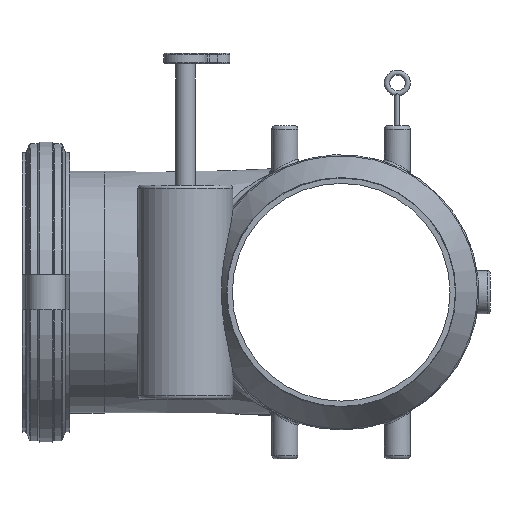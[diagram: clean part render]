
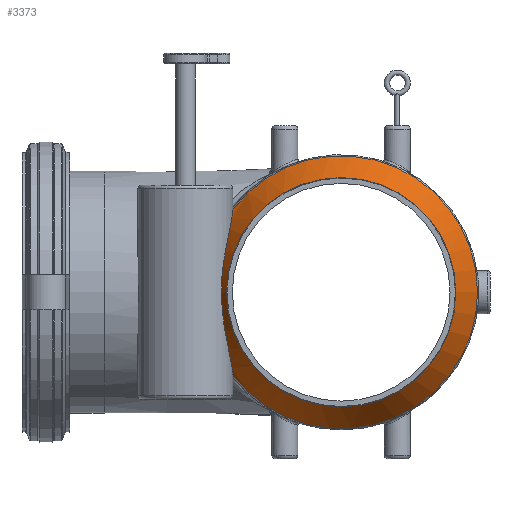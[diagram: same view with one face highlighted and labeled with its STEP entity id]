
A CAD part, left-side view. The second image highlights one B-rep face of the part: STEP entity #3373.
In plain terms, the highlighted conical face has half-angle 30 degrees and reference radius 184.256 mm.
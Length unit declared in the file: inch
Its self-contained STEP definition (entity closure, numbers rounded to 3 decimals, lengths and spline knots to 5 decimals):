
#80=CONICAL_SURFACE('',#3748,7.25419,0.524);
#370=FACE_OUTER_BOUND('',#570,.T.);
#570=EDGE_LOOP('',(#2831,#2832,#2833,#2834,#2835,#2836,#2837,#2838));
#781=CIRCLE('',#3749,6.62546);
#782=CIRCLE('',#3750,6.62546);
#783=CIRCLE('',#3751,7.88292);
#784=CIRCLE('',#3752,7.88292);
#785=CIRCLE('',#3753,6.62546);
#958=LINE('',#7745,#1097);
#1097=VECTOR('',#4640,7.25419);
#1191=B_SPLINE_CURVE_WITH_KNOTS('',3,(#7542,#7543,#7544,#7545,#7546,#7547,
#7548,#7549,#7550,#7551,#7552,#7553,#7554,#7555,#7556,#7557,#7558,#7559,
#7560,#7561,#7562,#7563,#7564,#7565,#7566,#7567,#7568,#7569,#7570,#7571),
 .UNSPECIFIED.,.F.,.F.,(4,2,2,2,2,2,2,2,2,2,2,2,2,2,4),(22.39908,
22.67746,25.83409,28.99072,30.56903,32.14734,
33.72566,35.30397,36.88228,38.4606,40.03891,
41.61723,44.77385,47.93048,48.20886),
 .UNSPECIFIED.);
#1432=VERTEX_POINT('',#7532);
#1433=VERTEX_POINT('',#7541);
#1459=VERTEX_POINT('',#7739);
#1460=VERTEX_POINT('',#7740);
#1461=VERTEX_POINT('',#7742);
#1462=VERTEX_POINT('',#7744);
#1871=EDGE_CURVE('',#1433,#1432,#1191,.T.);
#1928=EDGE_CURVE('',#1459,#1460,#781,.T.);
#1929=EDGE_CURVE('',#1461,#1459,#782,.T.);
#1930=EDGE_CURVE('',#1461,#1462,#958,.T.);
#1931=EDGE_CURVE('',#1462,#1433,#783,.T.);
#1932=EDGE_CURVE('',#1432,#1462,#784,.T.);
#1933=EDGE_CURVE('',#1460,#1461,#785,.T.);
#2831=ORIENTED_EDGE('',*,*,#1928,.F.);
#2832=ORIENTED_EDGE('',*,*,#1929,.F.);
#2833=ORIENTED_EDGE('',*,*,#1930,.T.);
#2834=ORIENTED_EDGE('',*,*,#1931,.T.);
#2835=ORIENTED_EDGE('',*,*,#1871,.T.);
#2836=ORIENTED_EDGE('',*,*,#1932,.T.);
#2837=ORIENTED_EDGE('',*,*,#1930,.F.);
#2838=ORIENTED_EDGE('',*,*,#1933,.F.);
#3373=ADVANCED_FACE('',(#370),#80,.T.);
#3748=AXIS2_PLACEMENT_3D('',#7738,#4634,#4635);
#3749=AXIS2_PLACEMENT_3D('',#7741,#4636,#4637);
#3750=AXIS2_PLACEMENT_3D('',#7743,#4638,#4639);
#3751=AXIS2_PLACEMENT_3D('',#7746,#4641,#4642);
#3752=AXIS2_PLACEMENT_3D('',#7747,#4643,#4644);
#3753=AXIS2_PLACEMENT_3D('',#7748,#4645,#4646);
#4634=DIRECTION('center_axis',(1.,0.,0.));
#4635=DIRECTION('ref_axis',(0.,1.,0.));
#4636=DIRECTION('center_axis',(-1.,0.,0.));
#4637=DIRECTION('ref_axis',(0.,0.,1.));
#4638=DIRECTION('center_axis',(-1.,0.,0.));
#4639=DIRECTION('ref_axis',(0.,0.,1.));
#4640=DIRECTION('',(0.866,-0.5,0.));
#4641=DIRECTION('center_axis',(-1.,0.,0.));
#4642=DIRECTION('ref_axis',(0.,0.,1.));
#4643=DIRECTION('center_axis',(-1.,0.,0.));
#4644=DIRECTION('ref_axis',(0.,0.,1.));
#4645=DIRECTION('center_axis',(-1.,0.,0.));
#4646=DIRECTION('ref_axis',(0.,0.,1.));
#7532=CARTESIAN_POINT('',(-6.86618,6.26246,-4.78769));
#7541=CARTESIAN_POINT('',(-6.86618,6.26246,4.78769));
#7542=CARTESIAN_POINT('Ctrl Pts',(-6.86618,6.26246,4.78769));
#7543=CARTESIAN_POINT('Ctrl Pts',(-6.89253,6.26358,4.76118));
#7544=CARTESIAN_POINT('Ctrl Pts',(-6.91828,6.26506,4.73463));
#7545=CARTESIAN_POINT('Ctrl Pts',(-7.22797,6.28697,4.40779));
#7546=CARTESIAN_POINT('Ctrl Pts',(-7.47308,6.34813,4.07005));
#7547=CARTESIAN_POINT('Ctrl Pts',(-7.8839,6.4961,3.33883));
#7548=CARTESIAN_POINT('Ctrl Pts',(-8.04907,6.58294,2.94504));
#7549=CARTESIAN_POINT('Ctrl Pts',(-8.23974,6.69917,2.33023));
#7550=CARTESIAN_POINT('Ctrl Pts',(-8.29391,6.7357,2.12122));
#7551=CARTESIAN_POINT('Ctrl Pts',(-8.3848,6.80042,1.69864));
#7552=CARTESIAN_POINT('Ctrl Pts',(-8.42153,6.82861,1.48508));
#7553=CARTESIAN_POINT('Ctrl Pts',(-8.4791,6.87417,1.05731));
#7554=CARTESIAN_POINT('Ctrl Pts',(-8.49995,6.89154,0.84308));
#7555=CARTESIAN_POINT('Ctrl Pts',(-8.52728,6.91453,0.41799));
#7556=CARTESIAN_POINT('Ctrl Pts',(-8.53376,6.92015,0.20713));
#7557=CARTESIAN_POINT('Ctrl Pts',(-8.53376,6.92015,-0.20713));
#7558=CARTESIAN_POINT('Ctrl Pts',(-8.52728,6.91453,-0.41799));
#7559=CARTESIAN_POINT('Ctrl Pts',(-8.49995,6.89154,-0.84308));
#7560=CARTESIAN_POINT('Ctrl Pts',(-8.4791,6.87417,-1.05731));
#7561=CARTESIAN_POINT('Ctrl Pts',(-8.42153,6.82861,-1.48508));
#7562=CARTESIAN_POINT('Ctrl Pts',(-8.3848,6.80042,-1.69864));
#7563=CARTESIAN_POINT('Ctrl Pts',(-8.29391,6.7357,-2.12122));
#7564=CARTESIAN_POINT('Ctrl Pts',(-8.23974,6.69917,-2.33023));
#7565=CARTESIAN_POINT('Ctrl Pts',(-8.04907,6.58294,-2.94504));
#7566=CARTESIAN_POINT('Ctrl Pts',(-7.8839,6.4961,-3.33883));
#7567=CARTESIAN_POINT('Ctrl Pts',(-7.47308,6.34813,-4.07005));
#7568=CARTESIAN_POINT('Ctrl Pts',(-7.22797,6.28697,-4.40779));
#7569=CARTESIAN_POINT('Ctrl Pts',(-6.91828,6.26506,-4.73463));
#7570=CARTESIAN_POINT('Ctrl Pts',(-6.89253,6.26358,-4.76118));
#7571=CARTESIAN_POINT('Ctrl Pts',(-6.86618,6.26246,-4.78769));
#7738=CARTESIAN_POINT('Origin',(-7.95518,0.,0.));
#7739=CARTESIAN_POINT('',(-9.04418,6.62546,0.));
#7740=CARTESIAN_POINT('',(-9.04418,0.,-6.62546));
#7741=CARTESIAN_POINT('Origin',(-9.04418,0.,0.));
#7742=CARTESIAN_POINT('',(-9.04418,-6.62546,0.));
#7743=CARTESIAN_POINT('Origin',(-9.04418,0.,0.));
#7744=CARTESIAN_POINT('',(-6.86618,-7.88292,0.));
#7745=CARTESIAN_POINT('',(-7.95518,-7.25419,0.));
#7746=CARTESIAN_POINT('Origin',(-6.86618,0.,0.));
#7747=CARTESIAN_POINT('Origin',(-6.86618,0.,0.));
#7748=CARTESIAN_POINT('Origin',(-9.04418,0.,0.));
